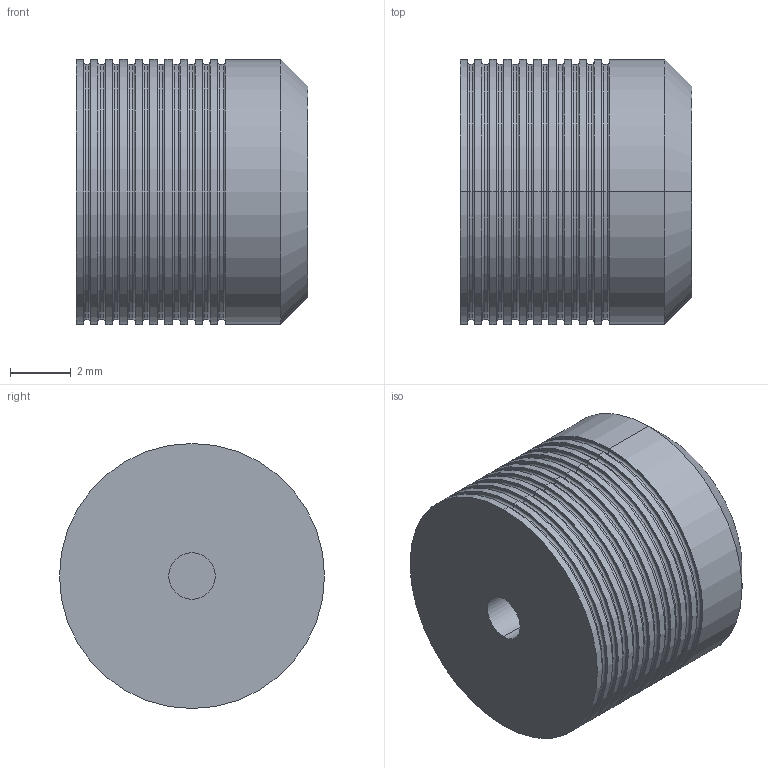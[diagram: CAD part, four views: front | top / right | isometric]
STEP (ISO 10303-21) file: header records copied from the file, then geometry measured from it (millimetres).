
FILE_DESCRIPTION (( 'STEP AP214' ), '1' );
FILE_NAME ('PLGA3430 _ _ 0A.STEP', '2020-02-19T16:06:55', ( 'tlc' ), ( 'Microsoft' ), 'SwSTEP 2.0', 'SolidWorks 2019', '' );
FILE_SCHEMA (( 'AUTOMOTIVE_DESIGN' ));
Length unit declared in the file: inch
Products named in the file (1): PLGA3430 _ _ 0A
Bounding box: 7.6 x 8.7 x 8.7 mm (x, y, z)
Volume: 420.6 mm3; surface area: 405.3 mm2
Topology: 1 solids, 1 shells, 109 faces, 216 edges, 130 vertices
Faces by surface type: cylinder 44, torus 40, plane 23, cone 2
Entity records: 2904 total; most frequent: DIRECTION 606, CARTESIAN_POINT 456, ORIENTED_EDGE 432, AXIS2_PLACEMENT_3D 280, EDGE_CURVE 216, CIRCLE 170, EDGE_LOOP 130, VERTEX_POINT 130
